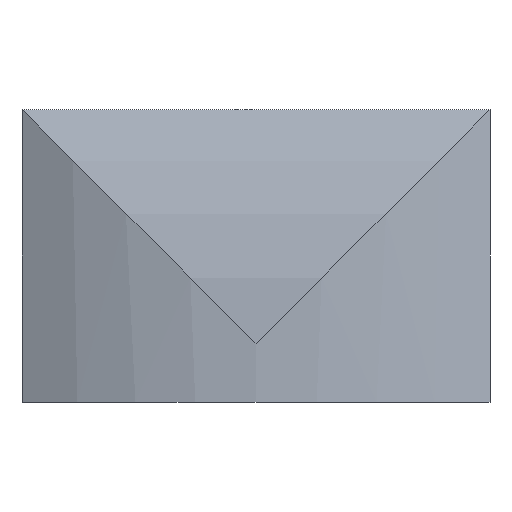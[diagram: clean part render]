
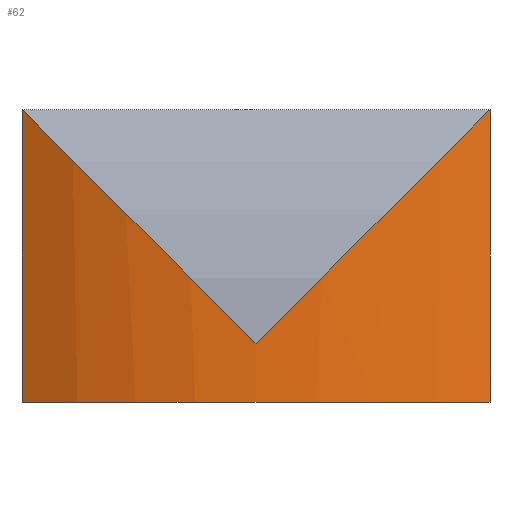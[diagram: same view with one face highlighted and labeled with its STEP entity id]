
A CAD part, top view. The second image highlights one B-rep face of the part: STEP entity #62.
In plain terms, the highlighted cylindrical face has radius 1.7 mm (diameter 3.4 mm), a partial arc.
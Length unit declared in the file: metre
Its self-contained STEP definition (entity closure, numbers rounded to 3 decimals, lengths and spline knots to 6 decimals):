
#14=CIRCLE('',#72,0.0017);
#16=LINE('',#106,#20);
#17=LINE('',#110,#21);
#20=VECTOR('',#82,1.);
#21=VECTOR('',#85,1.);
#26=ORIENTED_EDGE('',*,*,#38,.F.);
#27=ORIENTED_EDGE('',*,*,#37,.T.);
#28=ORIENTED_EDGE('',*,*,#40,.F.);
#29=ORIENTED_EDGE('',*,*,#41,.T.);
#30=ORIENTED_EDGE('',*,*,#42,.F.);
#37=EDGE_CURVE('',#44,#45,#49,.T.);
#38=EDGE_CURVE('',#44,#46,#50,.T.);
#40=EDGE_CURVE('',#47,#45,#16,.T.);
#41=EDGE_CURVE('',#47,#48,#14,.F.);
#42=EDGE_CURVE('',#46,#48,#17,.F.);
#44=VERTEX_POINT('',#97);
#45=VERTEX_POINT('',#98);
#46=VERTEX_POINT('',#103);
#47=VERTEX_POINT('',#107);
#48=VERTEX_POINT('',#109);
#49=B_SPLINE_CURVE_WITH_KNOTS('',3,(#93,#94,#95,#96),.UNSPECIFIED.,.F.,
 .F.,(4,4),(270.,298.072487),.UNSPECIFIED.);
#50=B_SPLINE_CURVE_WITH_KNOTS('',3,(#99,#100,#101,#102),.UNSPECIFIED.,.F.,
 .F.,(4,4),(270.,298.072487),.UNSPECIFIED.);
#52=EDGE_LOOP('',(#26,#27,#28,#29,#30));
#56=FACE_BOUND('',#52,.T.);
#60=CYLINDRICAL_SURFACE('',#71,0.0017);
#62=ADVANCED_FACE('',(#56),#60,.T.);
#71=AXIS2_PLACEMENT_3D('',#105,#80,#81);
#72=AXIS2_PLACEMENT_3D('',#108,#83,#84);
#80=DIRECTION('',(0.,-1.,0.));
#81=DIRECTION('',(0.471,0.,0.882));
#82=DIRECTION('',(0.,1.,0.));
#83=DIRECTION('',(0.,-1.,0.));
#84=DIRECTION('',(1.,0.,0.));
#85=DIRECTION('',(0.,1.,0.));
#93=CARTESIAN_POINT('',(0.009598,0.0048,-0.0282));
#94=CARTESIAN_POINT('',(0.00932,0.005078,-0.0282));
#95=CARTESIAN_POINT('',(0.009043,0.005355,-0.028269));
#96=CARTESIAN_POINT('',(0.008798,0.0056,-0.0284));
#97=CARTESIAN_POINT('',(0.009598,0.0048,-0.0282));
#98=CARTESIAN_POINT('',(0.008798,0.0056,-0.0284));
#99=CARTESIAN_POINT('',(0.009598,0.0048,-0.0282));
#100=CARTESIAN_POINT('',(0.009876,0.005078,-0.0282));
#101=CARTESIAN_POINT('',(0.010153,0.005355,-0.028269));
#102=CARTESIAN_POINT('',(0.010398,0.0056,-0.0284));
#103=CARTESIAN_POINT('',(0.010398,0.0056,-0.0284));
#105=CARTESIAN_POINT('',(0.009598,0.0056,-0.0299));
#106=CARTESIAN_POINT('',(0.008798,0.00345,-0.0284));
#107=CARTESIAN_POINT('',(0.008798,0.0046,-0.0284));
#108=CARTESIAN_POINT('',(0.009598,0.0046,-0.0299));
#109=CARTESIAN_POINT('',(0.010398,0.0046,-0.0284));
#110=CARTESIAN_POINT('',(0.010398,0.00345,-0.0284));
